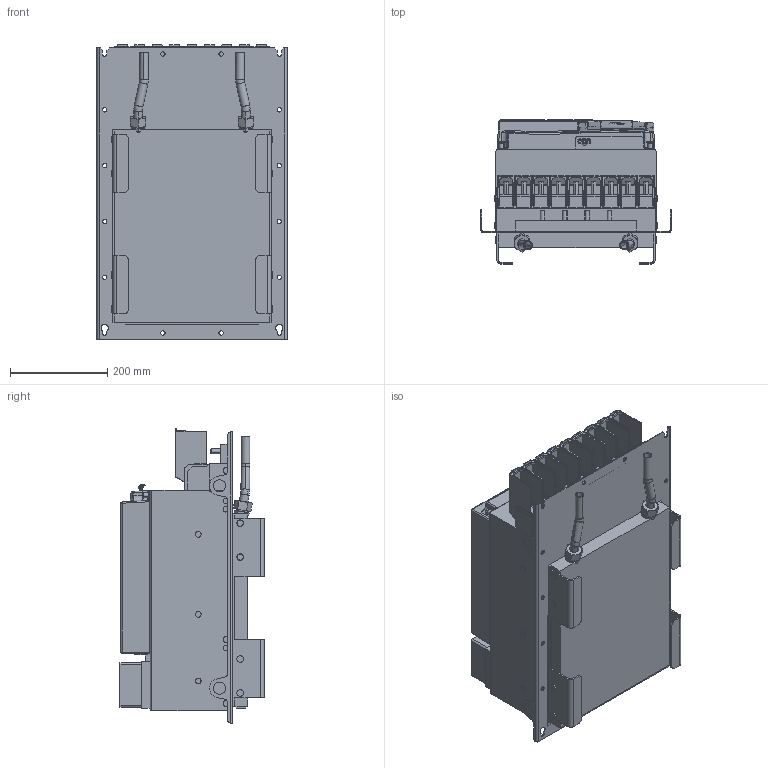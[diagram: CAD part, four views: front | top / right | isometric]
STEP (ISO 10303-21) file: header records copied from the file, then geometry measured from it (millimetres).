
FILE_DESCRIPTION (( 'STEP AP214' ), '1' );
FILE_NAME ('F6-7 TK5-K000.STEP', '2023-11-20T09:42:16', ( '' ), ( '' ), 'SwSTEP 2.0', 'SolidWorks 2022', '' );
FILE_SCHEMA (( 'AUTOMOTIVE_DESIGN' ));
Length unit declared in the file: millimetre
Products named in the file (13): Kundenmodell^10043622_000; 10043622_000_70F6 Klemme (Kundenmodell); Kundenmodell^10045475_000_Gehäusebaugruppe ohne Lüfterkarte; 10059764_000_Blindabdeckung (Kundenmodell); F6-7 TK5-K000; Kundenmodell^10061502_000; 10078335_000_Leistungsteil F6-7 TW5 (Kundenmodell); 10045475_000_Gehäusebaugruppe F6-7 (Kundenmodell); Kundenmodell^10035735_000; Kundenmodell ohne Zubehör^10078335_000; 10061502_000_Deckel (Kundenmodell); 10035735_000_Kundenmodell; Kundenmodell^10059764_000
Assembly tree (12 placements, depth 4):
  F6-7 TK5-K000
    10078335_000_Leistungsteil F6-7 TW5 (Kundenmodell)
      10043622_000_70F6 Klemme (Kundenmodell)
        Kundenmodell^10043622_000
      Kundenmodell ohne Zubehör^10078335_000
    10045475_000_Gehäusebaugruppe F6-7 (Kundenmodell)
      10061502_000_Deckel (Kundenmodell)
        Kundenmodell^10061502_000
      Kundenmodell^10045475_000_Gehäusebaugruppe ohne Lüfterkarte
    10035735_000_Kundenmodell
      10059764_000_Blindabdeckung (Kundenmodell)
        Kundenmodell^10059764_000
      Kundenmodell^10035735_000
Bounding box: 392 x 296.9 x 606.26 mm (x, y, z)
Volume: 41130488.5 mm3; surface area: 2136782 mm2
Topology: 12 solids, 22 shells, 3487 faces, 8958 edges, 5530 vertices
Faces by surface type: plane 1710, cylinder 1072, bspline 281, sphere 172, cone 155, torus 97
Entity records: 112585 total; most frequent: CARTESIAN_POINT 30289, ORIENTED_EDGE 17696, DIRECTION 16207, EDGE_CURVE 8848, VERTEX_POINT 5527, AXIS2_PLACEMENT_3D 5408, VECTOR 5391, LINE 5391
